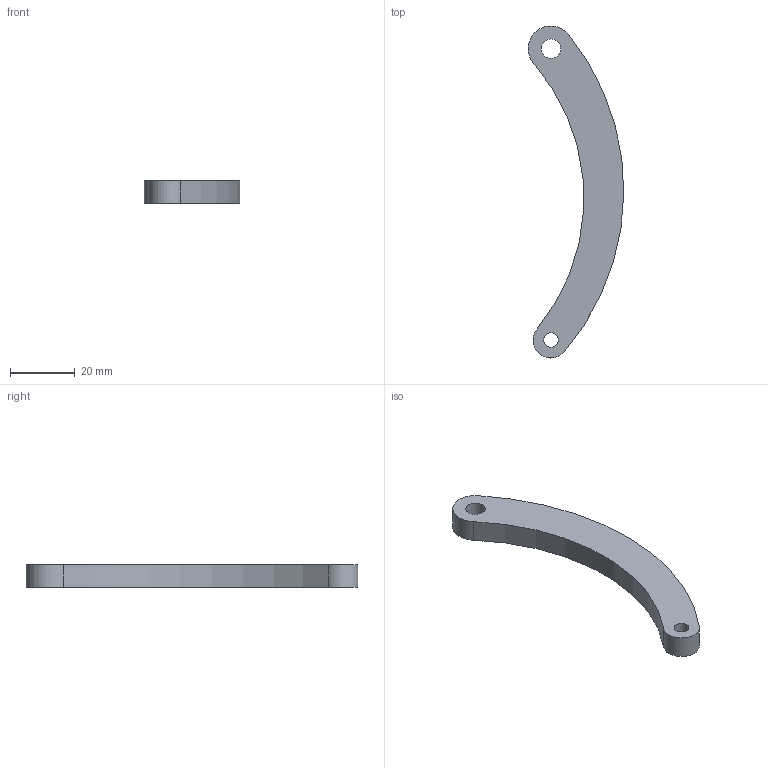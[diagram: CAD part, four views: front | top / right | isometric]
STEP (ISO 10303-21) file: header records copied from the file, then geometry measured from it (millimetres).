
FILE_DESCRIPTION(/* description */ (''),/* implementation_level */ '2;1');
FILE_NAME(/* name */ 'G:\My Drive\00 Халтуры\04_Барабан\Коромысло_Д16Т_1шт.stp',/* time_stamp */ '2025-10-20T13:34:24+02:00',/* author */ ('GeorgyZenker'),/* organization */ (''),/* preprocessor_version */ 'ST-DEVELOPER v18.1',/* originating_system */ 'Autodesk Inventor 2022',/* authorisation */ '');
FILE_SCHEMA (('AUTOMOTIVE_DESIGN { 1 0 10303 214 3 1 1 }'));
Length unit declared in the file: millimetre
Products named in the file (1): Коромысло
Bounding box: 29.49 x 102.39 x 7 mm (x, y, z)
Volume: 9006.9 mm3; surface area: 4446.2 mm2
Topology: 1 solids, 1 shells, 8 faces, 18 edges, 12 vertices
Faces by surface type: cylinder 6, plane 2
Full cylindrical faces by diameter (mm): 4.5 x1, 6 x1
Entity records: 283 total; most frequent: DIRECTION 48, CARTESIAN_POINT 39, ORIENTED_EDGE 36, AXIS2_PLACEMENT_3D 21, EDGE_CURVE 18, EDGE_LOOP 12, CIRCLE 12, VERTEX_POINT 12
